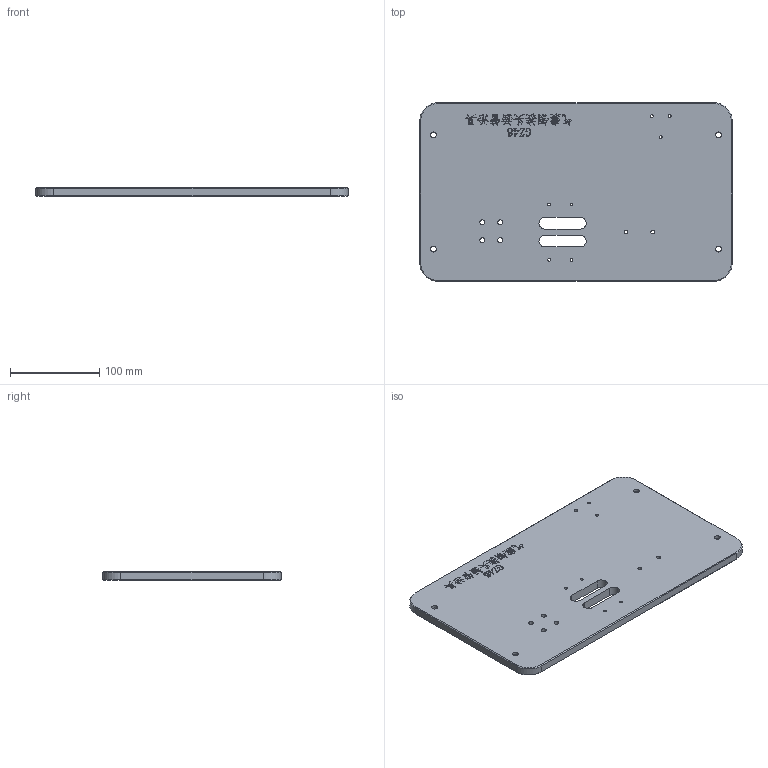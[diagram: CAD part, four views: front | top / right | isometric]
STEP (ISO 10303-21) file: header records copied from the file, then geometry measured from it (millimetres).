
FILE_DESCRIPTION (( 'STEP AP214' ), '1' );
FILE_NAME ('GZ46.01_V1底座.STEP', '2021-06-24T06:39:57', ( '微软中国' ), ( 'Microsoft' ), 'SwSTEP 2.0', 'SolidWorks 2017', '' );
FILE_SCHEMA (( 'AUTOMOTIVE_DESIGN' ));
Length unit declared in the file: millimetre
Products named in the file (1): GZ46.01_V1菁釱
Bounding box: 350 x 200 x 10 mm (x, y, z)
Volume: 676376.5 mm3; surface area: 151094.7 mm2
Topology: 1 solids, 1 shells, 777 faces, 2141 edges, 1422 vertices
Faces by surface type: plane 453, bspline 256, cylinder 60, cone 8
Entity records: 42191 total; most frequent: CARTESIAN_POINT 16373, ORIENTED_EDGE 4282, DIRECTION 2801, EDGE_CURVE 2141, LINE 1501, VECTOR 1501, VERTEX_POINT 1422, EDGE_LOOP 871
